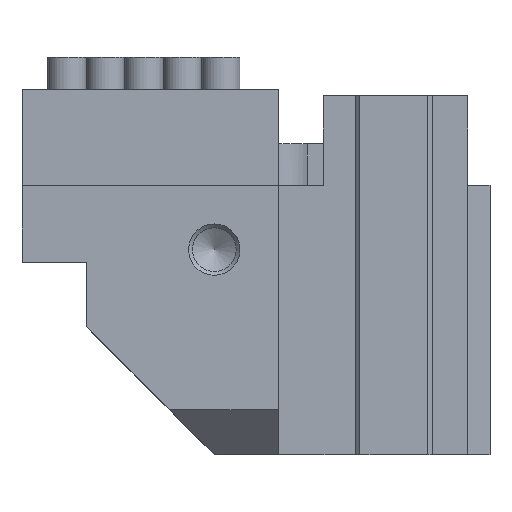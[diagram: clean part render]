
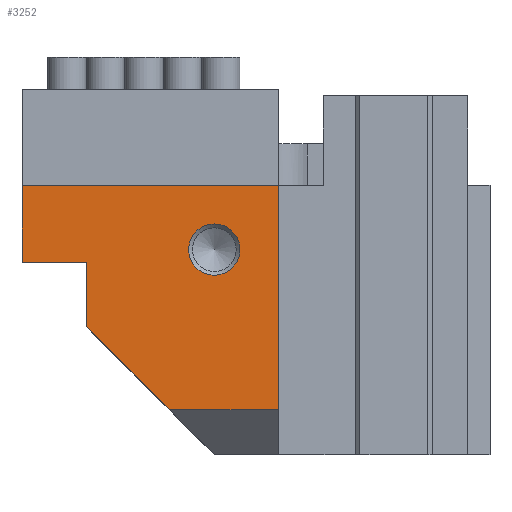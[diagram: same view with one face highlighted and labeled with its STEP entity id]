
A CAD part, left-side view. The second image highlights one B-rep face of the part: STEP entity #3252.
In plain terms, the highlighted planar face has unit normal (-1, 0, 0).
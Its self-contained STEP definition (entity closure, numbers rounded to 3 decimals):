
#160 = VERTEX_POINT ( 'NONE', #8239 ) ;
#373 = CARTESIAN_POINT ( 'NONE',  ( -62.5, 50., 14. ) ) ;
#405 = CARTESIAN_POINT ( 'NONE',  ( -62.5, 57., -28. ) ) ;
#428 = VECTOR ( 'NONE', #6635, 1000. ) ;
#437 = VECTOR ( 'NONE', #8185, 1000. ) ;
#743 = VERTEX_POINT ( 'NONE', #5947 ) ;
#878 = CARTESIAN_POINT ( 'NONE',  ( -62.5, 67., -28. ) ) ;
#954 = VERTEX_POINT ( 'NONE', #6192 ) ;
#1023 = ORIENTED_EDGE ( 'NONE', *, *, #8814, .F. ) ;
#1028 = DIRECTION ( 'NONE',  ( 1., 0., 0. ) ) ;
#1073 = DIRECTION ( 'NONE',  ( 0., 1., 0. ) ) ;
#1164 = AXIS2_PLACEMENT_3D ( 'NONE', #2561, #1028, #1804 ) ;
#1199 = DIRECTION ( 'NONE',  ( 0., 0., 1. ) ) ;
#1379 = VERTEX_POINT ( 'NONE', #8152 ) ;
#1702 = EDGE_CURVE ( 'NONE', #1379, #160, #2482, .T. ) ;
#1804 = DIRECTION ( 'NONE',  ( 0., 0., -1. ) ) ;
#1945 = ORIENTED_EDGE ( 'NONE', *, *, #4006, .T. ) ;
#1986 = DIRECTION ( 'NONE',  ( 0., 0., 1. ) ) ;
#2000 = VERTEX_POINT ( 'NONE', #6754 ) ;
#2155 = VERTEX_POINT ( 'NONE', #6930 ) ;
#2300 = FACE_BOUND ( 'NONE', #8283, .T. ) ;
#2388 = ORIENTED_EDGE ( 'NONE', *, *, #4508, .F. ) ;
#2482 = LINE ( 'NONE', #405, #428 ) ;
#2561 = CARTESIAN_POINT ( 'NONE',  ( -62.5, 24., 2. ) ) ;
#2668 = EDGE_CURVE ( 'NONE', #2000, #2000, #3510, .T. ) ;
#2920 = ORIENTED_EDGE ( 'NONE', *, *, #1702, .T. ) ;
#3017 = VERTEX_POINT ( 'NONE', #4269 ) ;
#3029 = VECTOR ( 'NONE', #1199, 1000. ) ;
#3104 = ORIENTED_EDGE ( 'NONE', *, *, #4738, .F. ) ;
#3146 = DIRECTION ( 'NONE',  ( 0., -1., 0. ) ) ;
#3252 = ADVANCED_FACE ( 'NONE', ( #2300, #5107 ), #4439, .F. ) ;
#3359 = DIRECTION ( 'NONE',  ( 0., -1., 0. ) ) ;
#3394 = VECTOR ( 'NONE', #3146, 1000. ) ;
#3510 = CIRCLE ( 'NONE', #4653, 4. ) ;
#3564 = ORIENTED_EDGE ( 'NONE', *, *, #2668, .F. ) ;
#3611 = ORIENTED_EDGE ( 'NONE', *, *, #6498, .F. ) ;
#3615 = VERTEX_POINT ( 'NONE', #8496 ) ;
#3759 = VECTOR ( 'NONE', #1073, 1000. ) ;
#3826 = LINE ( 'NONE', #373, #3394 ) ;
#3943 = ORIENTED_EDGE ( 'NONE', *, *, #4275, .F. ) ;
#4006 = EDGE_CURVE ( 'NONE', #2155, #1379, #5351, .T. ) ;
#4036 = VECTOR ( 'NONE', #3359, 1000. ) ;
#4055 = LINE ( 'NONE', #8813, #3029 ) ;
#4269 = CARTESIAN_POINT ( 'NONE',  ( -62.5, 97., 2. ) ) ;
#4275 = EDGE_CURVE ( 'NONE', #954, #3615, #4055, .T. ) ;
#4439 = PLANE ( 'NONE',  #1164 ) ;
#4508 = EDGE_CURVE ( 'NONE', #3017, #743, #7967, .T. ) ;
#4653 = AXIS2_PLACEMENT_3D ( 'NONE', #4955, #8186, #1986 ) ;
#4738 = EDGE_CURVE ( 'NONE', #2155, #954, #4995, .T. ) ;
#4955 = CARTESIAN_POINT ( 'NONE',  ( -62.5, 67., 4. ) ) ;
#4995 = LINE ( 'NONE', #878, #437 ) ;
#5107 = FACE_OUTER_BOUND ( 'NONE', #6519, .T. ) ;
#5351 = LINE ( 'NONE', #5483, #4036 ) ;
#5483 = CARTESIAN_POINT ( 'NONE',  ( -62.5, 24., -21. ) ) ;
#5887 = LINE ( 'NONE', #7910, #3759 ) ;
#5947 = CARTESIAN_POINT ( 'NONE',  ( -62.5, 97., 14. ) ) ;
#6192 = CARTESIAN_POINT ( 'NONE',  ( -62.5, 87., -8. ) ) ;
#6498 = EDGE_CURVE ( 'NONE', #743, #160, #3826, .T. ) ;
#6519 = EDGE_LOOP ( 'NONE', ( #3104, #1945, #2920, #3611, #2388, #1023, #3943 ) ) ;
#6576 = VECTOR ( 'NONE', #7933, 1000. ) ;
#6635 = DIRECTION ( 'NONE',  ( 0., 0., 1. ) ) ;
#6754 = CARTESIAN_POINT ( 'NONE',  ( -62.5, 67., 8. ) ) ;
#6930 = CARTESIAN_POINT ( 'NONE',  ( -62.5, 74., -21. ) ) ;
#7310 = CARTESIAN_POINT ( 'NONE',  ( -62.5, 97., 14. ) ) ;
#7910 = CARTESIAN_POINT ( 'NONE',  ( -62.5, 97., 2. ) ) ;
#7933 = DIRECTION ( 'NONE',  ( 0., 0., 1. ) ) ;
#7967 = LINE ( 'NONE', #7310, #6576 ) ;
#8152 = CARTESIAN_POINT ( 'NONE',  ( -62.5, 57., -21. ) ) ;
#8185 = DIRECTION ( 'NONE',  ( 0., 0.707, 0.707 ) ) ;
#8186 = DIRECTION ( 'NONE',  ( -1., 0., 0. ) ) ;
#8239 = CARTESIAN_POINT ( 'NONE',  ( -62.5, 57., 14. ) ) ;
#8283 = EDGE_LOOP ( 'NONE', ( #3564 ) ) ;
#8496 = CARTESIAN_POINT ( 'NONE',  ( -62.5, 87., 2. ) ) ;
#8813 = CARTESIAN_POINT ( 'NONE',  ( -62.5, 87., -8. ) ) ;
#8814 = EDGE_CURVE ( 'NONE', #3615, #3017, #5887, .T. ) ;
